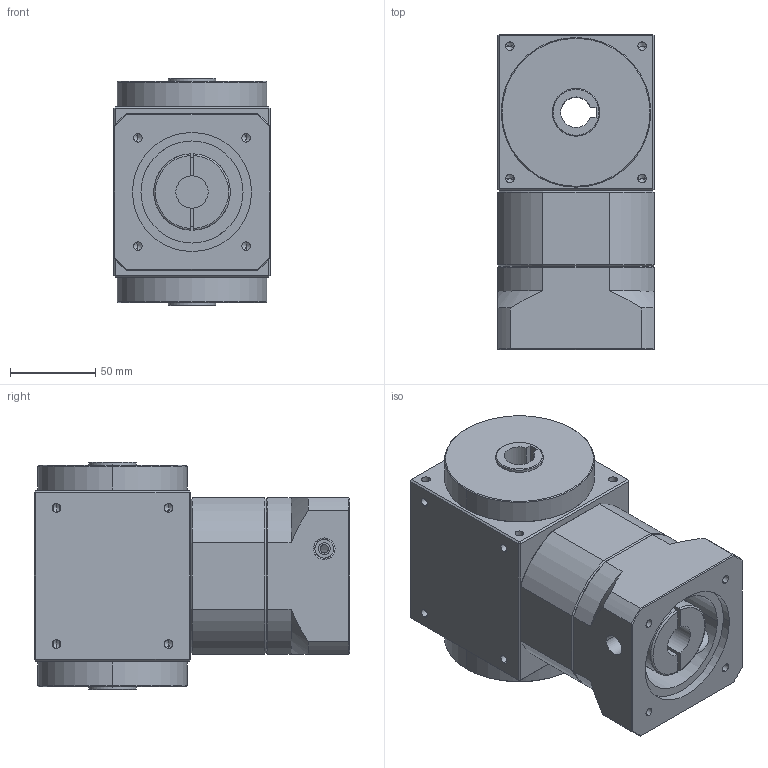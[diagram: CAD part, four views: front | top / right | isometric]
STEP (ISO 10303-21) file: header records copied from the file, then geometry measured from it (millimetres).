
FILE_DESCRIPTION (( 'STEP AP203' ), '1' );
FILE_NAME ('KHT90-H-L1£r70PCD£r90M6.STEP', '2014-03-27T00:44:13', ( 'KELLY' ), ( '' ), 'SwSTEP 2.0', 'SolidWorks 2012', '' );
FILE_SCHEMA (( 'CONFIG_CONTROL_DESIGN' ));
Length unit declared in the file: millimetre
Products named in the file (1): KHT90-H-L1｣r70PCD｣r90M6
Bounding box: 92 x 185.5 x 134 mm (x, y, z)
Volume: 1621804.5 mm3; surface area: 164389.8 mm2
Topology: 4 solids, 4 shells, 300 faces, 696 edges, 380 vertices
Faces by surface type: cylinder 128, cone 88, plane 80, torus 4
Entity records: 8929 total; most frequent: CARTESIAN_POINT 2375, DIRECTION 1386, ORIENTED_EDGE 1296, EDGE_CURVE 648, AXIS2_PLACEMENT_3D 545, VERTEX_POINT 380, EDGE_LOOP 348, FACE_OUTER_BOUND 300
